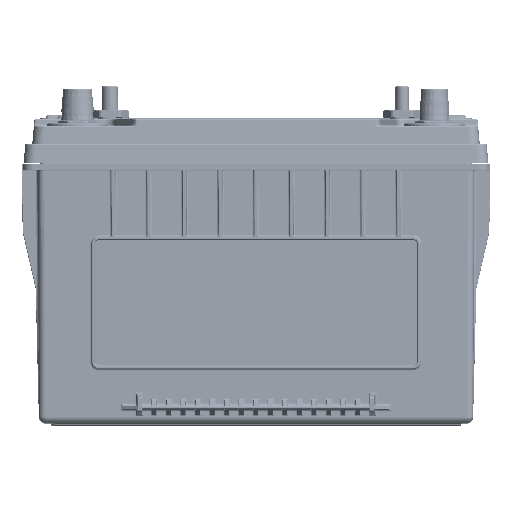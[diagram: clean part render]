
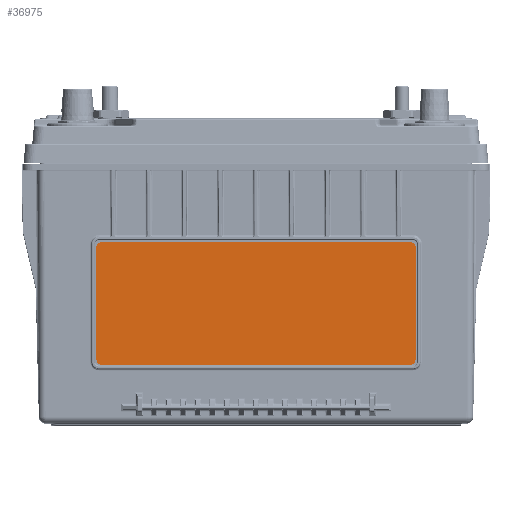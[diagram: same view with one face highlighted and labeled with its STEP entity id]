
A CAD part, top view. The second image highlights one B-rep face of the part: STEP entity #36975.
In plain terms, the highlighted planar face has unit normal (0, -0.009, 1).
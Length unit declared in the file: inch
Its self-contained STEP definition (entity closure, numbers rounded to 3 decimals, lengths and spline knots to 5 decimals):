
#16363 = EDGE_CURVE ( 'NONE', #195887, #225833, #157029, .T. ) ;
#19508 = DIRECTION ( 'NONE',  ( 0., -0.009, 1. ) ) ;
#20454 = VERTEX_POINT ( 'NONE', #62620 ) ;
#24042 = DIRECTION ( 'NONE',  ( 0., -0.009, 1. ) ) ;
#30374 = CARTESIAN_POINT ( 'NONE',  ( 3.57, -1.67584, 3.17491 ) ) ;
#31113 = VERTEX_POINT ( 'NONE', #210892 ) ;
#33247 = VECTOR ( 'NONE', #123126, 39.37008 ) ;
#36975 = ADVANCED_FACE ( 'NONE', ( #254392 ), #118670, .T. ) ;
#40950 = EDGE_LOOP ( 'NONE', ( #145910, #154965, #249046, #126124, #249721, #203375, #126431, #59934 ) ) ;
#41276 = EDGE_CURVE ( 'NONE', #225833, #31113, #83809, .T. ) ;
#44836 = CARTESIAN_POINT ( 'NONE',  ( -3.7, -1.80583, 3.17378 ) ) ;
#59934 = ORIENTED_EDGE ( 'NONE', *, *, #146819, .T. ) ;
#60415 = AXIS2_PLACEMENT_3D ( 'NONE', #80291, #239408, #79002 ) ;
#62620 = CARTESIAN_POINT ( 'NONE',  ( -3.57, -4.52573, 3.15004 ) ) ;
#69342 = EDGE_CURVE ( 'NONE', #223658, #181727, #223511, .T. ) ;
#71085 = DIRECTION ( 'NONE',  ( -1., 0., 0. ) ) ;
#79002 = DIRECTION ( 'NONE',  ( -1., 0., 0. ) ) ;
#80291 = CARTESIAN_POINT ( 'NONE',  ( -3.57, -1.80583, 3.17378 ) ) ;
#83809 = LINE ( 'NONE', #182893, #100890 ) ;
#86641 = DIRECTION ( 'NONE',  ( -1., 0., 0. ) ) ;
#89980 = CARTESIAN_POINT ( 'NONE',  ( -3.7, -1.80583, 3.17378 ) ) ;
#92324 = CARTESIAN_POINT ( 'NONE',  ( 3.7, -4.39573, 3.15118 ) ) ;
#100890 = VECTOR ( 'NONE', #180332, 39.37008 ) ;
#101101 = VECTOR ( 'NONE', #246548, 39.37008 ) ;
#112765 = DIRECTION ( 'NONE',  ( 0., -0.009, 1. ) ) ;
#114806 = DIRECTION ( 'NONE',  ( -1., 0., 0. ) ) ;
#115667 = CIRCLE ( 'NONE', #153075, 0.13 ) ;
#118670 = PLANE ( 'NONE',  #241492 ) ;
#123126 = DIRECTION ( 'NONE',  ( 0., -1., -0.009 ) ) ;
#123746 = AXIS2_PLACEMENT_3D ( 'NONE', #231470, #112765, #71085 ) ;
#125452 = DIRECTION ( 'NONE',  ( 0., -0.009, 1. ) ) ;
#126124 = ORIENTED_EDGE ( 'NONE', *, *, #69342, .T. ) ;
#126431 = ORIENTED_EDGE ( 'NONE', *, *, #145491, .T. ) ;
#126447 = EDGE_CURVE ( 'NONE', #181727, #20454, #157016, .T. ) ;
#127854 = AXIS2_PLACEMENT_3D ( 'NONE', #190496, #24042, #86641 ) ;
#138327 = VERTEX_POINT ( 'NONE', #212806 ) ;
#142634 = LINE ( 'NONE', #197421, #208127 ) ;
#145491 = EDGE_CURVE ( 'NONE', #138327, #158447, #115667, .T. ) ;
#145910 = ORIENTED_EDGE ( 'NONE', *, *, #16363, .T. ) ;
#146819 = EDGE_CURVE ( 'NONE', #158447, #195887, #142634, .T. ) ;
#153075 = AXIS2_PLACEMENT_3D ( 'NONE', #163257, #125452, #223258 ) ;
#153084 = EDGE_CURVE ( 'NONE', #31113, #223658, #239518, .T. ) ;
#154965 = ORIENTED_EDGE ( 'NONE', *, *, #41276, .T. ) ;
#157016 = CIRCLE ( 'NONE', #123746, 0.13 ) ;
#157029 = CIRCLE ( 'NONE', #127854, 0.13 ) ;
#158447 = VERTEX_POINT ( 'NONE', #92324 ) ;
#163257 = CARTESIAN_POINT ( 'NONE',  ( 3.57, -4.39573, 3.15118 ) ) ;
#180332 = DIRECTION ( 'NONE',  ( -1., 0., 0. ) ) ;
#181727 = VERTEX_POINT ( 'NONE', #192818 ) ;
#182893 = CARTESIAN_POINT ( 'NONE',  ( 3.57, -1.67584, 3.17491 ) ) ;
#190496 = CARTESIAN_POINT ( 'NONE',  ( 3.57, -1.80583, 3.17378 ) ) ;
#190665 = CARTESIAN_POINT ( 'NONE',  ( 3.7, -1.80583, 3.17378 ) ) ;
#191575 = LINE ( 'NONE', #206064, #101101 ) ;
#192818 = CARTESIAN_POINT ( 'NONE',  ( -3.7, -4.39573, 3.15118 ) ) ;
#195887 = VERTEX_POINT ( 'NONE', #190665 ) ;
#197421 = CARTESIAN_POINT ( 'NONE',  ( 3.7, -1.80583, 3.17378 ) ) ;
#198144 = CARTESIAN_POINT ( 'NONE',  ( 3.57, -1.80583, 3.17378 ) ) ;
#203375 = ORIENTED_EDGE ( 'NONE', *, *, #219402, .T. ) ;
#206064 = CARTESIAN_POINT ( 'NONE',  ( 3.57, -4.52573, 3.15004 ) ) ;
#208127 = VECTOR ( 'NONE', #222206, 39.37008 ) ;
#210892 = CARTESIAN_POINT ( 'NONE',  ( -3.57, -1.67584, 3.17491 ) ) ;
#212806 = CARTESIAN_POINT ( 'NONE',  ( 3.57, -4.52573, 3.15004 ) ) ;
#219402 = EDGE_CURVE ( 'NONE', #20454, #138327, #191575, .T. ) ;
#222206 = DIRECTION ( 'NONE',  ( 0., 1., 0.009 ) ) ;
#223258 = DIRECTION ( 'NONE',  ( 1., 0., 0. ) ) ;
#223511 = LINE ( 'NONE', #44836, #33247 ) ;
#223658 = VERTEX_POINT ( 'NONE', #89980 ) ;
#225833 = VERTEX_POINT ( 'NONE', #30374 ) ;
#231470 = CARTESIAN_POINT ( 'NONE',  ( -3.57, -4.39573, 3.15118 ) ) ;
#239408 = DIRECTION ( 'NONE',  ( 0., -0.009, 1. ) ) ;
#239518 = CIRCLE ( 'NONE', #60415, 0.13 ) ;
#241492 = AXIS2_PLACEMENT_3D ( 'NONE', #198144, #19508, #114806 ) ;
#246548 = DIRECTION ( 'NONE',  ( 1., 0., 0. ) ) ;
#249046 = ORIENTED_EDGE ( 'NONE', *, *, #153084, .T. ) ;
#249721 = ORIENTED_EDGE ( 'NONE', *, *, #126447, .T. ) ;
#254392 = FACE_OUTER_BOUND ( 'NONE', #40950, .T. ) ;
